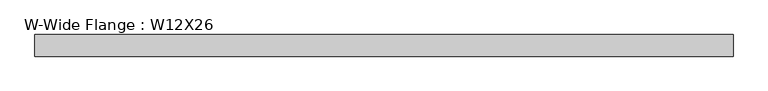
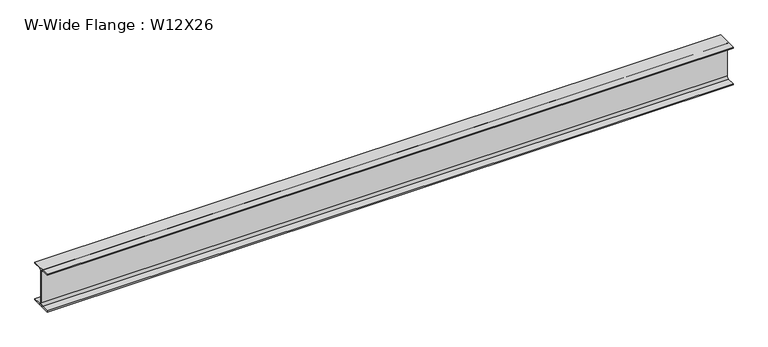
"""IFC4 building model written with IfcOpenShell, lengths in millimetres: beam geometry, W-Wide Flange : W12X26."""

from ifc_helpers import new_model, si_unit, point, frame, frame_2d, origin, place, context, project, spatial, polyline, circle_curve, trimmed, segment, composite_curve, outline, extrude, source, transform, mapped, element, save


def w_wide_flange_w12x26_545e1fcb(model_context):
    return source(origin(), model_context, "Body", "SweptSolid", [
        extrude(outline(composite_curve([segment(polyline([(82.423, -145.288), (82.423, -154.94), (-82.423, -154.94), (-82.423, -145.288), (-20.2565, -145.288)]), True, "CONTINUOUS"), segment(trimmed(circle_curve(frame_2d((-20.2565, -127.9525)), 17.3355), [point((-20.2565, -145.288))], [point((-2.921, -127.9525))], True, "CARTESIAN"), True, "CONTINUOUS"), segment(polyline([(-2.921, -127.9525), (-2.921, 127.9525)]), True, "CONTINUOUS"), segment(trimmed(circle_curve(frame_2d((-20.2565, 127.9525)), 17.3355), [point((-2.921, 127.9525))], [point((-20.2565, 145.288))], True, "CARTESIAN"), True, "CONTINUOUS"), segment(polyline([(-20.2565, 145.288), (-82.423, 145.288), (-82.423, 154.94), (82.423, 154.94), (82.423, 145.288), (20.2565, 145.288)]), True, "CONTINUOUS"), segment(trimmed(circle_curve(frame_2d((20.2565, 127.9525)), 17.3355), [point((20.2565, 145.288))], [point((2.921, 127.9525))], True, "CARTESIAN"), True, "CONTINUOUS"), segment(polyline([(2.921, 127.9525), (2.921, -127.9525)]), True, "CONTINUOUS"), segment(trimmed(circle_curve(frame_2d((20.2565, -127.9525)), 17.3355), [point((2.921, -127.9525))], [point((20.2565, -145.288))], True, "CARTESIAN"), True, "CONTINUOUS"), segment(polyline([(20.2565, -145.288), (82.423, -145.288)]), True, "CONTINUOUS")], self_intersect=False)), frame((-4032.377, 0.0, 0.0), z_axis=(1.0, 0.0, 0.0), x_axis=(0.0, 1.0, 0.0)), (0.0, 0.0, 1.0), 5315.204),
    ])


if __name__ == "__main__":
    model = new_model("IFC4")
    model_context = context("Model", 3, world=origin())
    ifc_project = project(units=[si_unit("LENGTHUNIT", "METRE", prefix="MILLI")], contexts=[model_context])
    site = spatial("IfcSite", under=ifc_project)
    building = spatial("IfcBuilding", under=site)
    placement = place(None, origin())
    w_wide_flange_w12x26_shape = w_wide_flange_w12x26_545e1fcb(model_context)
    element("IfcBeam", 1, ObjectType="W-Wide Flange : W12X26", at=placement, inside=building, context=model_context, shape_type="MappedRepresentation", body=[
        mapped(w_wide_flange_w12x26_shape, transform((0.0, 0.0, 0.0), x_axis=(1.0, 0.0, 0.0), y_axis=(0.0, 1.0, 0.0), z_axis=(0.0, 0.0, 1.0))),
    ])
    save(model, "model.ifc")
